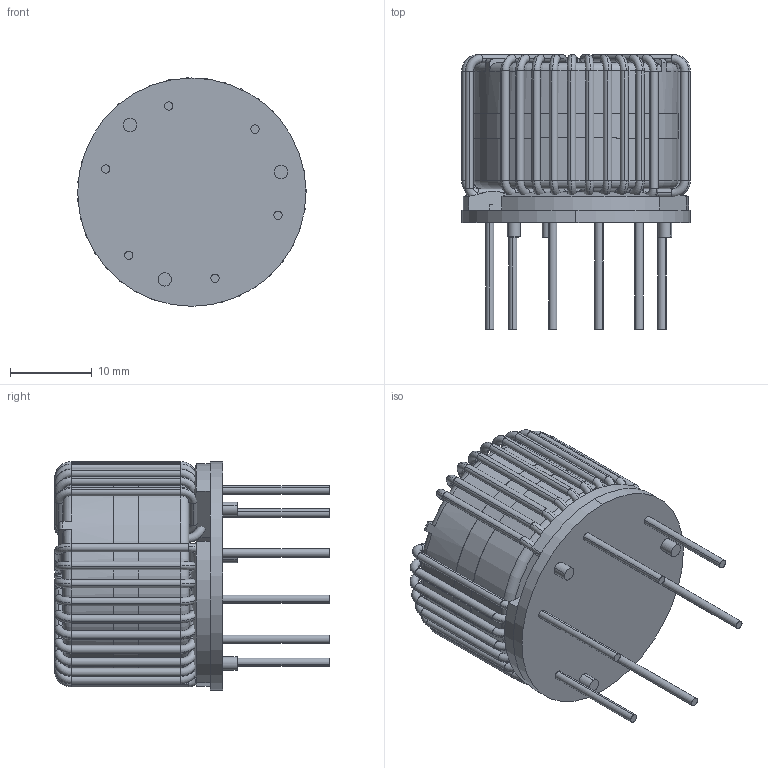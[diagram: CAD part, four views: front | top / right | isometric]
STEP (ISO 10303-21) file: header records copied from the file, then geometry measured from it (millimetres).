
FILE_DESCRIPTION (( 'STEP AP203' ), '1' );
FILE_NAME ('TPF-702U-B07A.STEP', '2020-08-25T08:13:53', ( 'Windows User' ), ( '' ), 'SwSTEP 2.0', 'SolidWorks 2015', '' );
FILE_SCHEMA (( 'CONFIG_CONTROL_DESIGN' ));
Length unit declared in the file: inch
Products named in the file (6): TPF-702U-B07A - COIL; TPF-702U-B07A - SPACER; TPF-702U-B07A - FRAME; TPF-702U-B07A - SILICONE; TPF-702U-B07A; TPF-702U-B07A - CORE
Assembly tree (5 placements, depth 2):
  TPF-702U-B07A
    TPF-702U-B07A - CORE
    TPF-702U-B07A - COIL
    TPF-702U-B07A - FRAME
    TPF-702U-B07A - SILICONE
    TPF-702U-B07A - SPACER
Bounding box: 28.02 x 33.65 x 28 mm (x, y, z)
Volume: 7921.3 mm3; surface area: 10285.4 mm2
Topology: 15 solids, 15 shells, 664 faces, 1875 edges, 1246 vertices
Faces by surface type: torus 267, cylinder 263, plane 77, bspline 57
Entity records: 28163 total; most frequent: CARTESIAN_POINT 9850, DIRECTION 4024, ORIENTED_EDGE 3750, EDGE_CURVE 1875, AXIS2_PLACEMENT_3D 1828, VERTEX_POINT 1246, CIRCLE 1213, EDGE_LOOP 683
